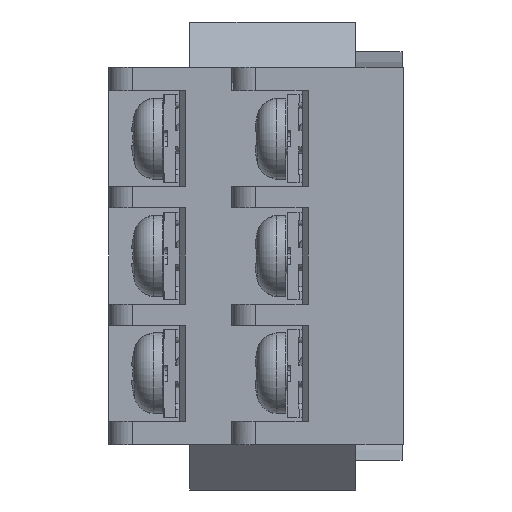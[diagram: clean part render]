
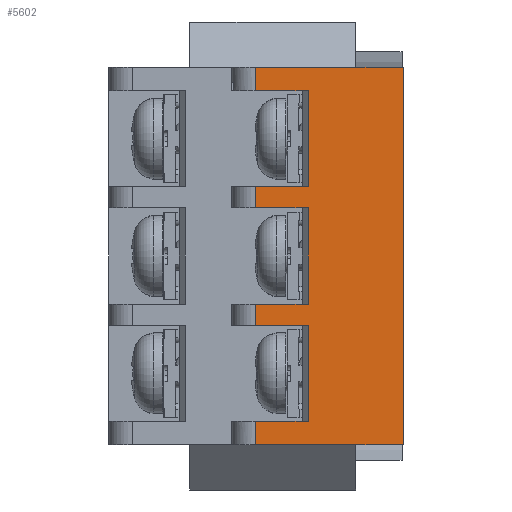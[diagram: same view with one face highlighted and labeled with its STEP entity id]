
A CAD part, left-side view. The second image highlights one B-rep face of the part: STEP entity #5602.
In plain terms, the highlighted planar face has unit normal (-1, 0, 0).
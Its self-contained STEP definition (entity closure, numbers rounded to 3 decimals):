
#5602=ADVANCED_FACE('',(#8629),#7321,.F.);
#7321=PLANE('',#38301);
#8629=FACE_OUTER_BOUND('',#10285,.T.);
#10285=EDGE_LOOP('',(#12342,#12343,#12344,#12345,#12346,#12347,#12348,#12349,
#12350,#12351,#12352,#12353,#12354,#12355,#12356,#12357));
#12342=ORIENTED_EDGE('',*,*,#25525,.T.);
#12343=ORIENTED_EDGE('',*,*,#25516,.T.);
#12344=ORIENTED_EDGE('',*,*,#25526,.F.);
#12345=ORIENTED_EDGE('',*,*,#25527,.T.);
#12346=ORIENTED_EDGE('',*,*,#25528,.F.);
#12347=ORIENTED_EDGE('',*,*,#25529,.T.);
#12348=ORIENTED_EDGE('',*,*,#25530,.T.);
#12349=ORIENTED_EDGE('',*,*,#25531,.F.);
#12350=ORIENTED_EDGE('',*,*,#25532,.F.);
#12351=ORIENTED_EDGE('',*,*,#25533,.T.);
#12352=ORIENTED_EDGE('',*,*,#25534,.T.);
#12353=ORIENTED_EDGE('',*,*,#25535,.F.);
#12354=ORIENTED_EDGE('',*,*,#25536,.F.);
#12355=ORIENTED_EDGE('',*,*,#25537,.F.);
#12356=ORIENTED_EDGE('',*,*,#25538,.T.);
#12357=ORIENTED_EDGE('',*,*,#25539,.F.);
#22225=VERTEX_POINT('',#49382);
#22226=VERTEX_POINT('',#49384);
#22234=VERTEX_POINT('',#49402);
#22235=VERTEX_POINT('',#49404);
#22236=VERTEX_POINT('',#49406);
#22237=VERTEX_POINT('',#49408);
#22238=VERTEX_POINT('',#49410);
#22239=VERTEX_POINT('',#49412);
#22240=VERTEX_POINT('',#49414);
#22241=VERTEX_POINT('',#49416);
#22242=VERTEX_POINT('',#49418);
#22243=VERTEX_POINT('',#49420);
#22244=VERTEX_POINT('',#49422);
#22245=VERTEX_POINT('',#49424);
#22246=VERTEX_POINT('',#49426);
#22247=VERTEX_POINT('',#49428);
#25516=EDGE_CURVE('',#22226,#22225,#30471,.T.);
#25525=EDGE_CURVE('',#22234,#22226,#30480,.T.);
#25526=EDGE_CURVE('',#22235,#22225,#30481,.T.);
#25527=EDGE_CURVE('',#22235,#22236,#30482,.T.);
#25528=EDGE_CURVE('',#22237,#22236,#30483,.T.);
#25529=EDGE_CURVE('',#22237,#22238,#30484,.T.);
#25530=EDGE_CURVE('',#22238,#22239,#30485,.T.);
#25531=EDGE_CURVE('',#22240,#22239,#30486,.T.);
#25532=EDGE_CURVE('',#22241,#22240,#30487,.T.);
#25533=EDGE_CURVE('',#22241,#22242,#30488,.T.);
#25534=EDGE_CURVE('',#22242,#22243,#30489,.T.);
#25535=EDGE_CURVE('',#22244,#22243,#30490,.T.);
#25536=EDGE_CURVE('',#22245,#22244,#30491,.T.);
#25537=EDGE_CURVE('',#22246,#22245,#30492,.T.);
#25538=EDGE_CURVE('',#22246,#22247,#30493,.T.);
#25539=EDGE_CURVE('',#22234,#22247,#30494,.T.);
#30471=LINE('',#49383,#34447);
#30480=LINE('',#49401,#34456);
#30481=LINE('',#49403,#34457);
#30482=LINE('',#49405,#34458);
#30483=LINE('',#49407,#34459);
#30484=LINE('',#49409,#34460);
#30485=LINE('',#49411,#34461);
#30486=LINE('',#49413,#34462);
#30487=LINE('',#49415,#34463);
#30488=LINE('',#49417,#34464);
#30489=LINE('',#49419,#34465);
#30490=LINE('',#49421,#34466);
#30491=LINE('',#49423,#34467);
#30492=LINE('',#49425,#34468);
#30493=LINE('',#49427,#34469);
#30494=LINE('',#49429,#34470);
#34447=VECTOR('',#40729,1.);
#34456=VECTOR('',#40740,1.);
#34457=VECTOR('',#40741,1.);
#34458=VECTOR('',#40742,1.);
#34459=VECTOR('',#40743,1.);
#34460=VECTOR('',#40744,1.);
#34461=VECTOR('',#40745,1.);
#34462=VECTOR('',#40746,1.);
#34463=VECTOR('',#40747,1.);
#34464=VECTOR('',#40748,1.);
#34465=VECTOR('',#40749,1.);
#34466=VECTOR('',#40750,1.);
#34467=VECTOR('',#40751,1.);
#34468=VECTOR('',#40752,1.);
#34469=VECTOR('',#40753,1.);
#34470=VECTOR('',#40754,1.);
#38301=AXIS2_PLACEMENT_3D('',#49430,#40755,#40756);
#40729=DIRECTION('',(0.,0.,1.));
#40740=DIRECTION('',(0.,-1.,0.));
#40741=DIRECTION('',(0.,-1.,0.));
#40742=DIRECTION('',(0.,0.,-1.));
#40743=DIRECTION('',(0.,1.,0.));
#40744=DIRECTION('',(0.,0.,-1.));
#40745=DIRECTION('',(0.,1.,0.));
#40746=DIRECTION('',(0.,0.,1.));
#40747=DIRECTION('',(0.,1.,0.));
#40748=DIRECTION('',(0.,0.,-1.));
#40749=DIRECTION('',(0.,1.,0.));
#40750=DIRECTION('',(0.,0.,1.));
#40751=DIRECTION('',(0.,1.,0.));
#40752=DIRECTION('',(0.,0.,1.));
#40753=DIRECTION('',(0.,1.,0.));
#40754=DIRECTION('',(0.,0.,1.));
#40755=DIRECTION('',(1.,0.,0.));
#40756=DIRECTION('',(0.,0.,1.));
#49382=CARTESIAN_POINT('',(-33.6,0.,16.1));
#49383=CARTESIAN_POINT('',(-33.6,0.,-6.2));
#49384=CARTESIAN_POINT('',(-33.6,0.,-16.1));
#49401=CARTESIAN_POINT('',(-33.6,23.1,-16.1));
#49402=CARTESIAN_POINT('',(-33.6,12.6,-16.1));
#49403=CARTESIAN_POINT('',(-33.6,0.,16.1));
#49404=CARTESIAN_POINT('',(-33.6,12.6,16.1));
#49405=CARTESIAN_POINT('',(-33.6,12.6,16.2));
#49406=CARTESIAN_POINT('',(-33.6,12.6,14.1));
#49407=CARTESIAN_POINT('',(-33.6,0.,14.1));
#49408=CARTESIAN_POINT('',(-33.6,8.1,14.1));
#49409=CARTESIAN_POINT('',(-33.6,8.1,5.95));
#49410=CARTESIAN_POINT('',(-33.6,8.1,5.9));
#49411=CARTESIAN_POINT('',(-33.6,0.,5.9));
#49412=CARTESIAN_POINT('',(-33.6,12.6,5.9));
#49413=CARTESIAN_POINT('',(-33.6,12.6,-6.2));
#49414=CARTESIAN_POINT('',(-33.6,12.6,4.1));
#49415=CARTESIAN_POINT('',(-33.6,0.,4.1));
#49416=CARTESIAN_POINT('',(-33.6,8.1,4.1));
#49417=CARTESIAN_POINT('',(-33.6,8.1,-4.05));
#49418=CARTESIAN_POINT('',(-33.6,8.1,-4.1));
#49419=CARTESIAN_POINT('',(-33.6,0.,-4.1));
#49420=CARTESIAN_POINT('',(-33.6,12.6,-4.1));
#49421=CARTESIAN_POINT('',(-33.6,12.6,-16.2));
#49422=CARTESIAN_POINT('',(-33.6,12.6,-5.9));
#49423=CARTESIAN_POINT('',(-33.6,0.,-5.9));
#49424=CARTESIAN_POINT('',(-33.6,8.1,-5.9));
#49425=CARTESIAN_POINT('',(-33.6,8.1,-5.95));
#49426=CARTESIAN_POINT('',(-33.6,8.1,-14.1));
#49427=CARTESIAN_POINT('',(-33.6,0.,-14.1));
#49428=CARTESIAN_POINT('',(-33.6,12.6,-14.1));
#49429=CARTESIAN_POINT('',(-33.6,12.6,-16.2));
#49430=CARTESIAN_POINT('',(-33.6,0.,-6.2));
